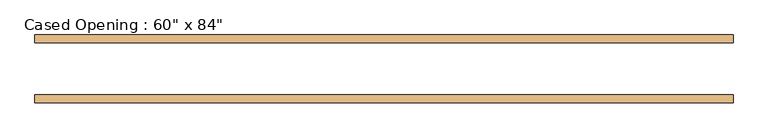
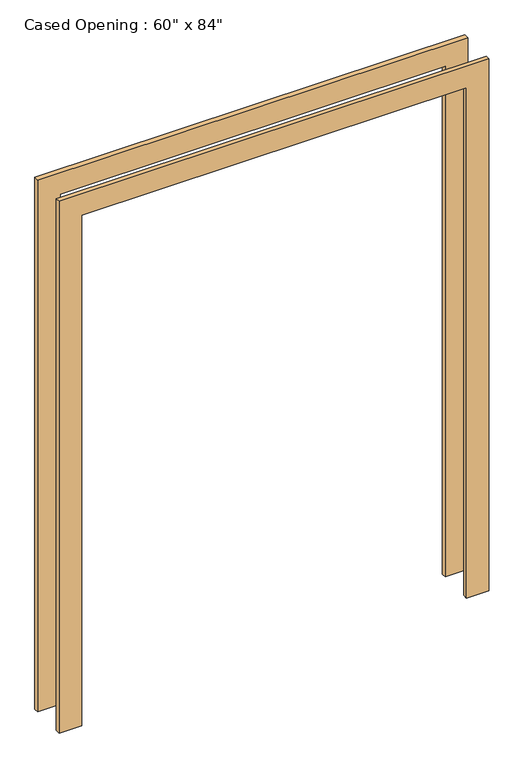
"""IFC4 building model written with IfcOpenShell, lengths in millimetres: door geometry."""

from ifc_helpers import new_model, si_unit, frame, origin, place, context, project, spatial, polyline, outline, extrude, source, transform, mapped, element, save


def door_5638c9d7(model_context):
    return source(origin(), model_context, "Body", "SweptSolid", [
        extrude(outline(polyline([(2222.5, -850.9), (0.0, -850.9), (0.0, -762.0), (2133.6, -762.0), (2133.6, 762.0), (0.0, 762.0), (0.0, 850.9), (2222.5, 850.9), (2222.5, -850.9)])), frame((0.0, 63.5, 0.0), z_axis=(0.0, 1.0, 0.0), x_axis=(0.0, 0.0, 1.0)), (0.0, 0.0, 1.0), 19.05),
        extrude(outline(polyline([(0.0, -850.9), (0.0, -762.0), (2133.6, -762.0), (2133.6, 762.0), (0.0, 762.0), (0.0, 850.9), (2222.5, 850.9), (2222.5, -850.9), (0.0, -850.9)])), frame((0.0, -82.55, 0.0), z_axis=(0.0, 1.0, 0.0), x_axis=(0.0, 0.0, 1.0)), (0.0, 0.0, 1.0), 19.05),
    ])


if __name__ == "__main__":
    model = new_model("IFC4")
    model_context = context("Model", 3, world=origin())
    ifc_project = project(units=[si_unit("LENGTHUNIT", "METRE", prefix="MILLI")], contexts=[model_context])
    site = spatial("IfcSite", under=ifc_project)
    building = spatial("IfcBuilding", under=site)
    placement = place(None, origin())
    door_shape = door_5638c9d7(model_context)
    element("IfcDoor", 1, ObjectType="Cased Opening : 60\" x 84\"", at=placement, inside=building, context=model_context, shape_type="MappedRepresentation", body=[
        mapped(door_shape, transform((0.0, 0.0, 0.0), x_axis=(1.0, 0.0, 0.0), y_axis=(0.0, 1.0, 0.0), z_axis=(0.0, 0.0, 1.0))),
    ])
    save(model, "model.ifc")
